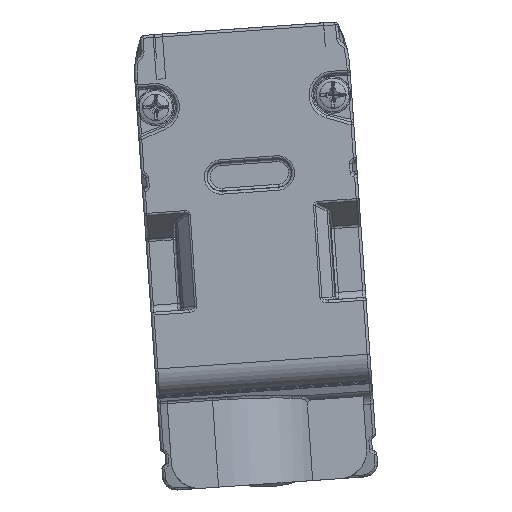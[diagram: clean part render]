
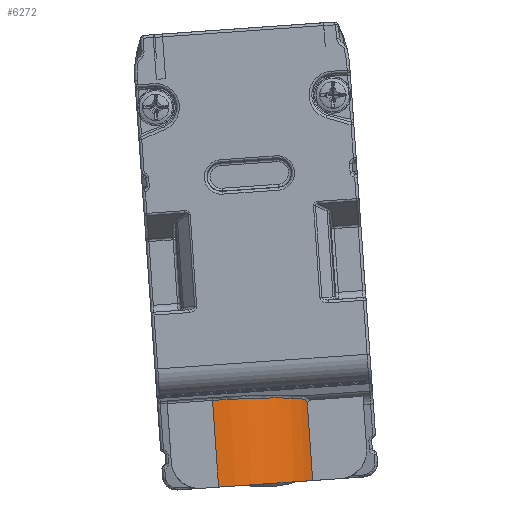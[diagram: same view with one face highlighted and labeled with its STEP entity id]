
A CAD part, front view. The second image highlights one B-rep face of the part: STEP entity #6272.
In plain terms, the highlighted cylindrical face has radius 7.5 mm (diameter 15 mm), a partial arc.
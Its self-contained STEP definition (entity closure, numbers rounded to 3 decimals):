
#110=ELLIPSE('',#23388,7.53,7.5);
#973=LINE('',#35129,#2638);
#974=LINE('',#35142,#2639);
#2638=VECTOR('',#27374,1.);
#2639=VECTOR('',#27377,1.);
#4299=FACE_OUTER_BOUND('',#7969,.T.);
#5088=B_SPLINE_CURVE_WITH_KNOTS('',3,(#35132,#35133,#35134,#35135,#35136,
#35137,#35138),.UNSPECIFIED.,.F.,.F.,(4,3,4),(0.,0.485,1.),.UNSPECIFIED.);
#6272=ADVANCED_FACE('',(#4299),#7202,.T.);
#7202=CYLINDRICAL_SURFACE('',#23390,7.5);
#7969=EDGE_LOOP('',(#10586,#10587,#10588,#10589,#10590));
#10586=ORIENTED_EDGE('',*,*,#18456,.T.);
#10587=ORIENTED_EDGE('',*,*,#18457,.T.);
#10588=ORIENTED_EDGE('',*,*,#18458,.T.);
#10589=ORIENTED_EDGE('',*,*,#18459,.T.);
#10590=ORIENTED_EDGE('',*,*,#18460,.F.);
#15653=VERTEX_POINT('',#35130);
#15654=VERTEX_POINT('',#35131);
#15655=VERTEX_POINT('',#35139);
#15656=VERTEX_POINT('',#35141);
#15657=VERTEX_POINT('',#35143);
#18456=EDGE_CURVE('',#15653,#15654,#973,.T.);
#18457=EDGE_CURVE('',#15654,#15655,#5088,.T.);
#18458=EDGE_CURVE('',#15655,#15656,#110,.T.);
#18459=EDGE_CURVE('',#15656,#15657,#974,.T.);
#18460=EDGE_CURVE('',#15653,#15657,#21464,.T.);
#21464=CIRCLE('',#23389,7.5);
#23388=AXIS2_PLACEMENT_3D('',#35140,#27375,#27376);
#23389=AXIS2_PLACEMENT_3D('',#35144,#27378,#27379);
#23390=AXIS2_PLACEMENT_3D('',#35145,#27380,#27381);
#27374=DIRECTION('',(-0.07,0.,0.998));
#27375=DIRECTION('',(0.069,-0.089,-0.994));
#27376=DIRECTION('',(0.006,0.996,-0.089));
#27377=DIRECTION('',(0.07,0.,-0.998));
#27378=DIRECTION('',(0.07,0.,-0.998));
#27379=DIRECTION('',(0.998,0.,0.07));
#27380=DIRECTION('',(0.07,0.,-0.998));
#27381=DIRECTION('',(0.,-1.,0.));
#35129=CARTESIAN_POINT('',(-40.701,-320.597,14.888));
#35130=CARTESIAN_POINT('',(-40.701,-320.597,14.888));
#35131=CARTESIAN_POINT('',(-41.088,-320.597,20.435));
#35132=CARTESIAN_POINT('',(-41.088,-320.597,20.435));
#35133=CARTESIAN_POINT('',(-41.139,-320.686,20.528));
#35134=CARTESIAN_POINT('',(-41.198,-320.793,20.603));
#35135=CARTESIAN_POINT('',(-41.263,-320.905,20.654));
#35136=CARTESIAN_POINT('',(-41.332,-321.024,20.708));
#35137=CARTESIAN_POINT('',(-41.408,-321.152,20.738));
#35138=CARTESIAN_POINT('',(-41.487,-321.278,20.743));
#35139=CARTESIAN_POINT('',(-41.487,-321.278,20.743));
#35140=CARTESIAN_POINT('',(-47.816,-317.318,19.944));
#35141=CARTESIAN_POINT('',(-47.863,-324.818,20.616));
#35142=CARTESIAN_POINT('',(-47.667,-324.818,17.815));
#35143=CARTESIAN_POINT('',(-47.43,-324.818,14.418));
#35144=CARTESIAN_POINT('',(-47.43,-317.318,14.418));
#35145=CARTESIAN_POINT('',(-52.434,-317.318,85.982));
